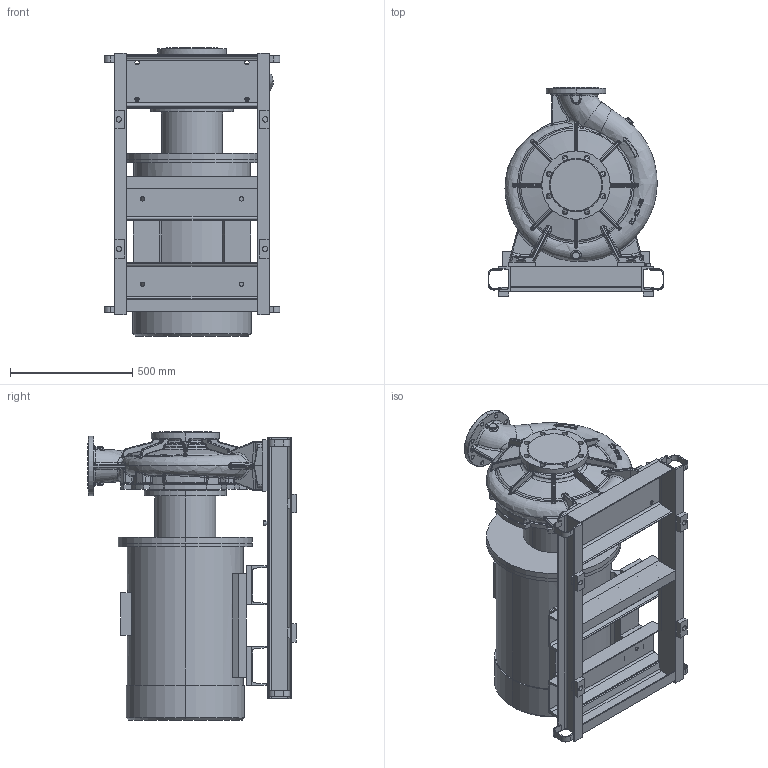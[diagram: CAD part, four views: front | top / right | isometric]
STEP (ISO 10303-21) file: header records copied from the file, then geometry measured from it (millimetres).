
FILE_DESCRIPTION (( 'STEP AP203' ), '1' );
FILE_NAME ('KRM 150-125-400-4-55.STEP', '2026-08-06T05:38:25', ( '' ), ( '' ), 'SwSTEP 2.0', 'SolidWorks 2016', '' );
FILE_SCHEMA (( 'CONFIG_CONTROL_DESIGN' ));
Length unit declared in the file: millimetre
Products named in the file (1): KRM 150-125-400-4-55
Bounding box: 720.42 x 855 x 1180.8 mm (x, y, z)
Volume: 210929624.3 mm3; surface area: 7075288.4 mm2
Topology: 30 solids, 30 shells, 1973 faces, 4918 edges, 2981 vertices
Faces by surface type: bspline 797, plane 498, cylinder 416, torus 130, cone 94, sphere 38
Entity records: 126048 total; most frequent: CARTESIAN_POINT 85036, ORIENTED_EDGE 9728, DIRECTION 6930, EDGE_CURVE 4864, VERTEX_POINT 2981, AXIS2_PLACEMENT_3D 2715, EDGE_LOOP 2101, FACE_OUTER_BOUND 1973
